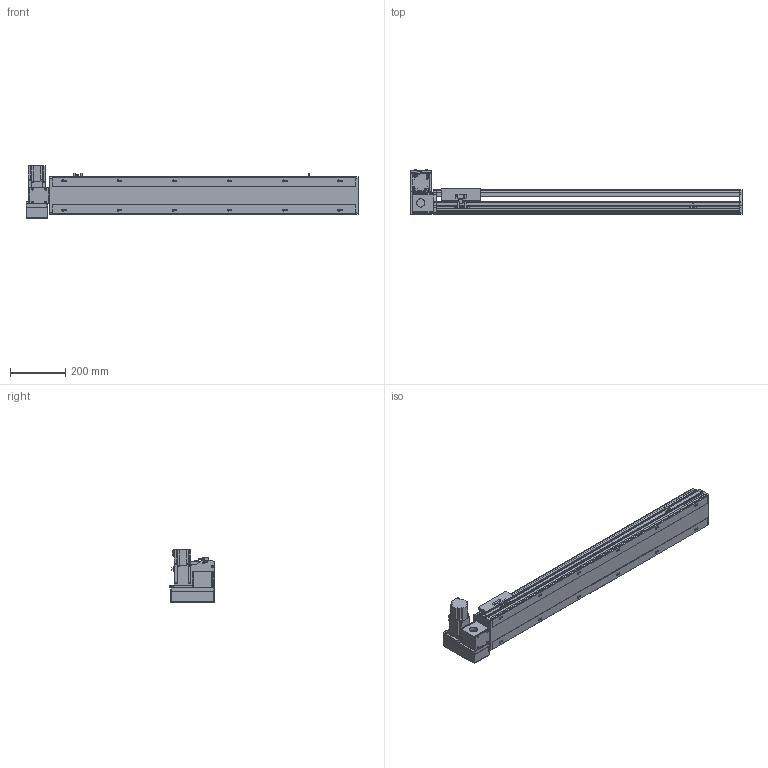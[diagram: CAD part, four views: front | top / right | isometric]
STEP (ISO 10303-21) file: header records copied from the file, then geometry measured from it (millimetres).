
FILE_DESCRIPTION(/* description */ ('STEP AP214'),/* implementation_level */ '2;1');
FILE_NAME(/* name */ 'PBS140S-P40-S850-LU-T40-C1-N(0)',/* time_stamp */ '2022-06-09T02:33:57+02:00',/* author */ ('License CC BY-ND 4.0'),/* organization */ ('CADENAS'),/* preprocessor_version */ 'ST-DEVELOPER v18.102',/* originating_system */ 'PARTsolutions',/* authorisation */ ' ');
FILE_SCHEMA (('AUTOMOTIVE_DESIGN {1 0 10303 214 3 1 1}'));
Length unit declared in the file: millimetre
Products named in the file (7): PBS140S-P40-S850-LU-T40-C1-N(0); PBS140S_sensor; PBS140S_plant; PBS140S_sliser; T40-p1; PBS140ST-LU_motors; PBS140S-S850()_body
Assembly tree (8 placements, depth 2):
  PBS140S-P40-S850-LU-T40-C1-N(0)
    PBS140S_sensor  x3
    PBS140S_plant
    PBS140S_sliser
    T40-p1
    PBS140ST-LU_motors
    PBS140S-S850()_body
Bounding box: 1204 x 162.5 x 189.7 mm (x, y, z)
Volume: 6357882.9 mm3; surface area: 1106716.8 mm2
Topology: 8 solids, 8 shells, 1067 faces, 2831 edges, 1853 vertices
Faces by surface type: plane 690, cylinder 329, cone 38, sphere 8, torus 2
Full cylindrical faces by diameter (mm): 3.242 x4, 4 x2, 4.134 x4, 4.4 x8, 4.5 x2, 4.8 x4, 4.917 x20, 5.5 x7, 6 x2, 7 x14, 7.5 x8, 8 x12, 8.5 x4, 10.5 x12, 14 x1, 30 x2, 50 x2
Entity records: 30580 total; most frequent: CARTESIAN_POINT 5592, DIRECTION 5208, ORIENTED_EDGE 4942, EDGE_CURVE 2471, AXIS2_PLACEMENT_3D 1799, VERTEX_POINT 1705, LINE 1610, VECTOR 1610
